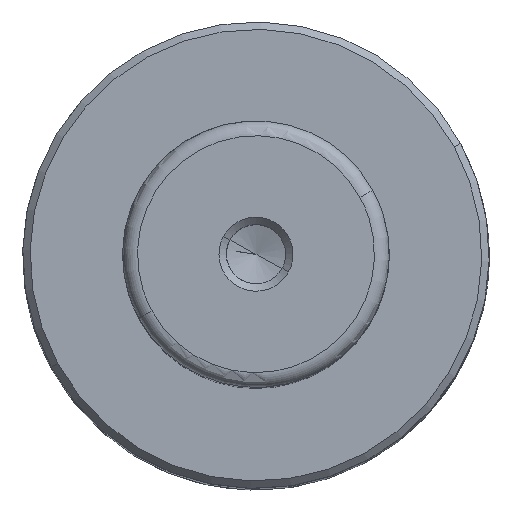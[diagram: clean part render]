
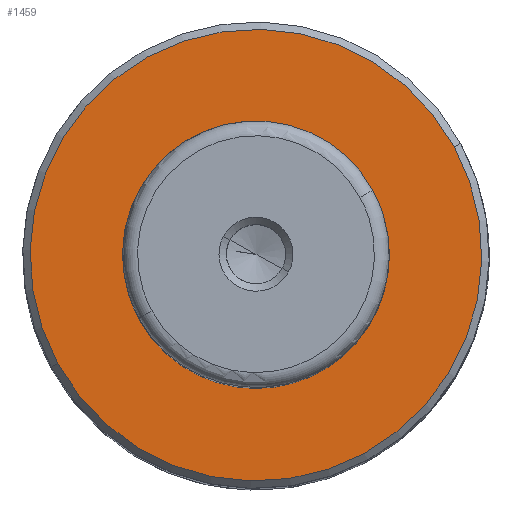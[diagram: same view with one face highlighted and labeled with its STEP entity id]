
A CAD part, top view. The second image highlights one B-rep face of the part: STEP entity #1459.
In plain terms, the highlighted planar face has unit normal (0, 0, 1).
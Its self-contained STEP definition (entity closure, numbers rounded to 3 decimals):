
#1346 = VERTEX_POINT('',#1347);
#1347 = CARTESIAN_POINT('',(26.766,14.622,128.));
#1353 = EDGE_CURVE('',#1346,#1354,#1356,.T.);
#1354 = VERTEX_POINT('',#1355);
#1355 = CARTESIAN_POINT('',(-26.766,-14.622,128.));
#1356 = CIRCLE('',#1357,30.5);
#1357 = AXIS2_PLACEMENT_3D('',#1358,#1359,#1360);
#1358 = CARTESIAN_POINT('',(0.,0.,128.));
#1359 = DIRECTION('',(0.,0.,-1.));
#1360 = DIRECTION('',(-1.,0.,0.));
#1446 = EDGE_CURVE('',#1354,#1346,#1447,.T.);
#1447 = CIRCLE('',#1448,30.5);
#1448 = AXIS2_PLACEMENT_3D('',#1449,#1450,#1451);
#1449 = CARTESIAN_POINT('',(0.,0.,128.));
#1450 = DIRECTION('',(0.,0.,-1.));
#1451 = DIRECTION('',(-1.,0.,0.));
#1459 = ADVANCED_FACE('',(#1460),#1464,.T.);
#1460 = FACE_BOUND('',#1461,.T.);
#1461 = EDGE_LOOP('',(#1462,#1463));
#1462 = ORIENTED_EDGE('',*,*,#1353,.F.);
#1463 = ORIENTED_EDGE('',*,*,#1446,.F.);
#1464 = PLANE('',#1465);
#1465 = AXIS2_PLACEMENT_3D('',#1466,#1467,#1468);
#1466 = CARTESIAN_POINT('',(30.5,0.,128.));
#1467 = DIRECTION('',(0.,0.,1.));
#1468 = DIRECTION('',(1.,0.,0.));
